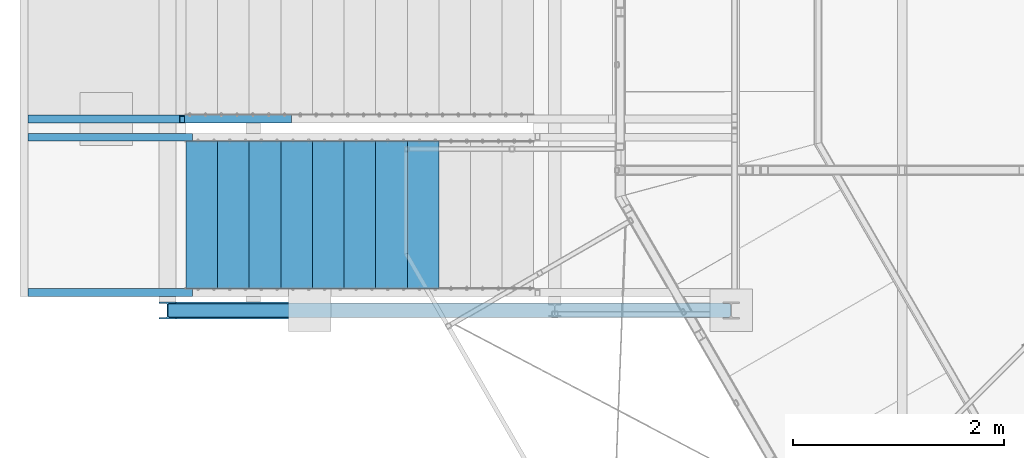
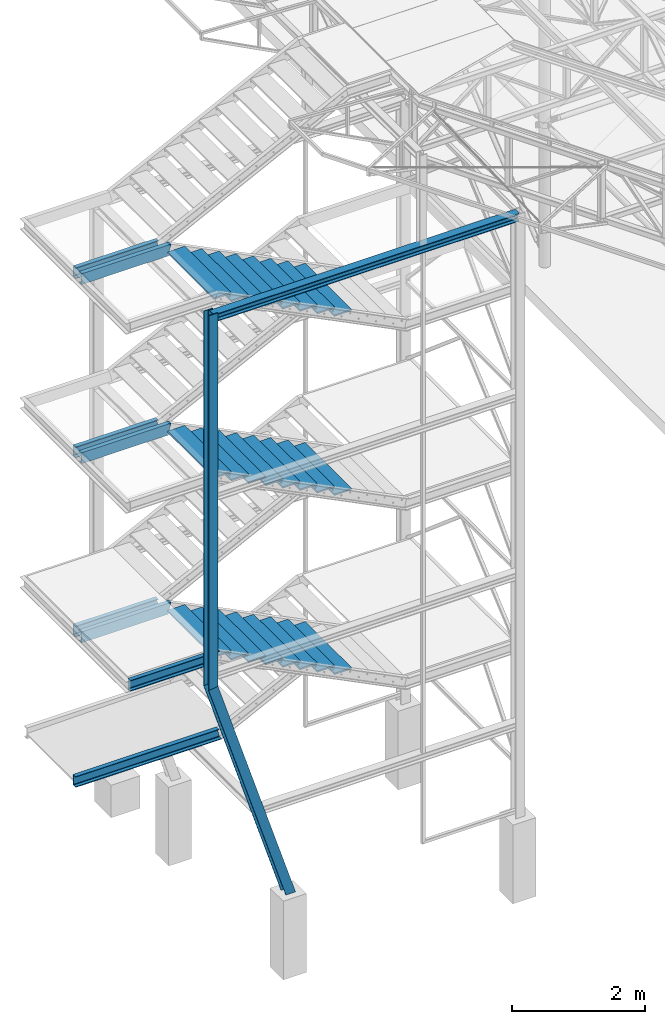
# One storey, part 36 of 132: 35 discrete accessories, 33 elements without a shape of their own.
"""IFC2X3 building model written with IfcOpenShell, lengths in millimetres."""

from ifc_helpers import new_model, si_unit, frame, origin_with_axes, origin_2d_with_axis, place, context, subcontext, project, spatial, polyline, i_section, u_section, outline, extrude, boolean, clip, halfspace, material, type_object, element, aggregate, save


model = new_model("IFC2X3")

# Units and contexts
model_context = context("Model", 3, precision=1e-05, world=origin_with_axes())
body_context = subcontext(model_context, "Body", "Model", "MODEL_VIEW")
ifc_project = project(units=[si_unit("LENGTHUNIT", "METRE", prefix="MILLI"), si_unit("AREAUNIT", "SQUARE_METRE"), si_unit("VOLUMEUNIT", "CUBIC_METRE"), si_unit("MASSUNIT", "GRAM", prefix="KILO"), si_unit("TIMEUNIT", "SECOND"), si_unit("PLANEANGLEUNIT", "RADIAN"), si_unit("SOLIDANGLEUNIT", "STERADIAN"), si_unit("THERMODYNAMICTEMPERATUREUNIT", "DEGREE_CELSIUS"), si_unit("LUMINOUSINTENSITYUNIT", "LUMEN")], contexts=[model_context])

# Site, building, storey
site_placement = place(None, origin_with_axes())
site = spatial("IfcSite", under=ifc_project, at=site_placement, Name="Budowa", CompositionType="ELEMENT")
building_placement = place(site_placement, origin_with_axes())
building = spatial("IfcBuilding", under=site, at=building_placement, Name="Undefined", CompositionType="ELEMENT")
storey_placement = place(building_placement, origin_with_axes())
storey = spatial("IfcBuildingStorey", under=building, at=storey_placement, Name="Undefined", CompositionType="ELEMENT", Elevation=0.0)

# Assembly, discrete accessory
assembly_1_placement = place(storey_placement, origin_with_axes())
assembly_1 = element("IfcElementAssembly", 1, at=assembly_1_placement, inside=storey, Name="Steel Assembly", AssemblyPlace="NOTDEFINED", PredefinedType="RIGID_FRAME")
ifc_material_1 = material(Name="STEEL/S235")
discrete_accessory_type_1 = type_object("IfcDiscreteAccessoryType", Name="BELKA")
discrete_accessory_1_placement = place(assembly_1_placement, frame((-5620.0000000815, 9487.50000004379, 12250.0000000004), z_axis=(0.0, 0.0, 1.0), x_axis=(1.0, 0.0, 0.0)))
discrete_accessory_1 = element("IfcDiscreteAccessory", 2, at=discrete_accessory_1_placement, type_object=discrete_accessory_type_1, material=ifc_material_1, Name="BELKA", ObjectType="UPN200", context=body_context, shape_type="Clipping", body=[
    clip(extrude(u_section(Depth=200.0, FlangeWidth=75.0, WebThickness=8.5, FlangeThickness=11.5, FilletRadius=11.5, EdgeRadius=6.0, at=origin_2d_with_axis()), frame((1487.44966333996, 0.0, 0.0), z_axis=(-1.0, 0.0, 0.0), x_axis=(0.0, -1.0, 0.0)), (0.0, 0.0, 1.0), 1487.45), halfspace(frame((1440.00000000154, 6.00266503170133e-11, 99.9999999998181), z_axis=(-0.97324898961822, 0.0, -0.229752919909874), x_axis=(0.0, -1.0, 0.0)), True)),
])
aggregate(assembly_1, [discrete_accessory_1])

assembly_2_placement = place(storey_placement, origin_with_axes())
assembly_2 = element("IfcElementAssembly", 3, at=assembly_2_placement, inside=storey, Name="Steel Assembly", AssemblyPlace="NOTDEFINED", PredefinedType="RIGID_FRAME")
discrete_accessory_2_placement = place(assembly_2_placement, frame((-4060.0000000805, 9312.50000004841, 12249.9999999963), z_axis=(0.0, 0.0, 1.0), x_axis=(-1.0, 0.0, 0.0)))
discrete_accessory_2 = element("IfcDiscreteAccessory", 4, at=discrete_accessory_2_placement, type_object=discrete_accessory_type_1, material=ifc_material_1, Name="BELKA", ObjectType="UPN200", context=body_context, shape_type="Clipping", body=[
    clip(extrude(u_section(Depth=200.0, FlangeWidth=75.0, WebThickness=8.5, FlangeThickness=11.5, FilletRadius=11.5, EdgeRadius=6.0, at=origin_2d_with_axis()), frame((1560.0000000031, 0.0, 0.0), z_axis=(-1.0, 0.0, 0.0), x_axis=(0.0, -1.0, 0.0)), (0.0, 0.0, 1.0), 1560.24), halfspace(frame((3.68624523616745e-06, -37.5000000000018, 99.9999999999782), z_axis=(-0.97324898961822, 0.0, -0.229752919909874), x_axis=(0.0, -1.0, 0.0)), False)),
])
aggregate(assembly_2, [discrete_accessory_2])

assembly_3_placement = place(storey_placement, origin_with_axes())
assembly_3 = element("IfcElementAssembly", 5, at=assembly_3_placement, inside=storey, Name="Steel Assembly", AssemblyPlace="NOTDEFINED", PredefinedType="RIGID_FRAME")
discrete_accessory_3_placement = place(assembly_3_placement, frame((-5620.0000000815, 9487.50000004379, 8950.00000000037), z_axis=(0.0, 0.0, 1.0), x_axis=(1.0, 0.0, 0.0)))
discrete_accessory_3 = element("IfcDiscreteAccessory", 6, at=discrete_accessory_3_placement, type_object=discrete_accessory_type_1, material=ifc_material_1, Name="BELKA", ObjectType="UPN200", context=body_context, shape_type="Clipping", body=[
    clip(extrude(u_section(Depth=200.0, FlangeWidth=75.0, WebThickness=8.5, FlangeThickness=11.5, FilletRadius=11.5, EdgeRadius=6.0, at=origin_2d_with_axis()), frame((1487.44966333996, 0.0, 0.0), z_axis=(-1.0, 0.0, 0.0), x_axis=(0.0, -1.0, 0.0)), (0.0, 0.0, 1.0), 1487.45), halfspace(frame((1440.00000000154, 6.00266503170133e-11, 99.9999999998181), z_axis=(-0.97324898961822, 0.0, -0.229752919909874), x_axis=(0.0, -1.0, 0.0)), True)),
])
aggregate(assembly_3, [discrete_accessory_3])

assembly_4_placement = place(storey_placement, origin_with_axes())
assembly_4 = element("IfcElementAssembly", 7, at=assembly_4_placement, inside=storey, Name="Steel Assembly", AssemblyPlace="NOTDEFINED", PredefinedType="RIGID_FRAME")
discrete_accessory_4_placement = place(assembly_4_placement, frame((-4060.00000007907, 9312.50000004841, 8949.99999999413), z_axis=(0.0, 0.0, 1.0), x_axis=(-1.0, 0.0, 0.0)))
discrete_accessory_4 = element("IfcDiscreteAccessory", 8, at=discrete_accessory_4_placement, type_object=discrete_accessory_type_1, material=ifc_material_1, Name="BELKA", ObjectType="UPN200", context=body_context, shape_type="Clipping", body=[
    clip(extrude(u_section(Depth=200.0, FlangeWidth=75.0, WebThickness=8.5, FlangeThickness=11.5, FilletRadius=11.5, EdgeRadius=6.0, at=origin_2d_with_axis()), frame((1560.0000000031, 0.0, 0.0), z_axis=(-1.0, 0.0, 0.0), x_axis=(0.0, -1.0, 0.0)), (0.0, 0.0, 1.0), 1560.24), halfspace(frame((3.68624523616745e-06, -37.5000000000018, 99.9999999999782), z_axis=(-0.97324898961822, 0.0, -0.229752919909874), x_axis=(0.0, -1.0, 0.0)), False)),
])
aggregate(assembly_4, [discrete_accessory_4])

assembly_5_placement = place(storey_placement, origin_with_axes())
assembly_5 = element("IfcElementAssembly", 9, at=assembly_5_placement, inside=storey, Name="Steel Assembly", AssemblyPlace="NOTDEFINED", PredefinedType="RIGID_FRAME")
discrete_accessory_5_placement = place(assembly_5_placement, frame((-5620.00000008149, 9487.50000004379, 5650.00000000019), z_axis=(0.0, 0.0, 1.0), x_axis=(1.0, 0.0, 0.0)))
discrete_accessory_5 = element("IfcDiscreteAccessory", 10, at=discrete_accessory_5_placement, type_object=discrete_accessory_type_1, material=ifc_material_1, Name="BELKA", ObjectType="UPN200", context=body_context, shape_type="Clipping", body=[
    clip(extrude(u_section(Depth=200.0, FlangeWidth=75.0, WebThickness=8.5, FlangeThickness=11.5, FilletRadius=11.5, EdgeRadius=6.0, at=origin_2d_with_axis()), frame((1487.44966333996, 0.0, 0.0), z_axis=(-1.0, 0.0, 0.0), x_axis=(0.0, -1.0, 0.0)), (0.0, 0.0, 1.0), 1487.45), halfspace(frame((1440.00000000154, 6.00266503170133e-11, 99.9999999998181), z_axis=(-0.97324898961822, 0.0, -0.229752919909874), x_axis=(0.0, -1.0, 0.0)), True)),
])
aggregate(assembly_5, [discrete_accessory_5])

assembly_6_placement = place(storey_placement, origin_with_axes())
assembly_6 = element("IfcElementAssembly", 11, at=assembly_6_placement, inside=storey, Name="Steel Assembly", AssemblyPlace="NOTDEFINED", PredefinedType="RIGID_FRAME")
discrete_accessory_6_placement = place(assembly_6_placement, frame((-5620.000000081, 7837.50000004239, 5649.9999999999), z_axis=(0.0, 0.0, 1.0), x_axis=(1.0, 0.0, 0.0)))
discrete_accessory_6 = element("IfcDiscreteAccessory", 12, at=discrete_accessory_6_placement, type_object=discrete_accessory_type_1, material=ifc_material_1, Name="BELKA", ObjectType="UPN200", context=body_context, shape_type="Clipping", body=[
    clip(extrude(u_section(Depth=200.0, FlangeWidth=75.0, WebThickness=8.5, FlangeThickness=11.5, FilletRadius=11.5, EdgeRadius=6.0, at=origin_2d_with_axis()), frame((1560.23606796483, 0.0, 0.0), z_axis=(-1.0, 0.0, 0.0), x_axis=(0.0, -1.0, 0.0)), (0.0, 0.0, 1.0), 1560.24), halfspace(frame((1559.99999998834, -37.4999999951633, 100.000000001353), z_axis=(-0.97324898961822, 0.0, 0.229752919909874), x_axis=(0.0, -1.0, 0.0)), True)),
])
aggregate(assembly_6, [discrete_accessory_6])

assembly_7_placement = place(storey_placement, origin_with_axes())
assembly_7 = element("IfcElementAssembly", 13, at=assembly_7_placement, inside=storey, Name="Steel Assembly", AssemblyPlace="NOTDEFINED", PredefinedType="RIGID_FRAME")
discrete_accessory_7_placement = place(assembly_7_placement, frame((-4060.0000000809, 9312.50000004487, 5650.00000000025), z_axis=(0.0, 0.0, 1.0), x_axis=(-1.0, 0.0, 0.0)))
discrete_accessory_7 = element("IfcDiscreteAccessory", 14, at=discrete_accessory_7_placement, type_object=discrete_accessory_type_1, material=ifc_material_1, Name="BELKA", ObjectType="UPN200", context=body_context, shape_type="Clipping", body=[
    clip(extrude(u_section(Depth=200.0, FlangeWidth=75.0, WebThickness=8.5, FlangeThickness=11.5, FilletRadius=11.5, EdgeRadius=6.0, at=origin_2d_with_axis()), frame((1560.0000000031, 0.0, 0.0), z_axis=(-1.0, 0.0, 0.0), x_axis=(0.0, -1.0, 0.0)), (0.0, 0.0, 1.0), 1560.24), halfspace(frame((3.68624523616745e-06, -37.5000000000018, 99.9999999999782), z_axis=(-0.97324898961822, 0.0, -0.229752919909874), x_axis=(0.0, -1.0, 0.0)), False)),
])
aggregate(assembly_7, [discrete_accessory_7])

assembly_8_placement = place(storey_placement, origin_with_axes())
assembly_8 = element("IfcElementAssembly", 15, at=assembly_8_placement, inside=storey, Name="Steel Assembly", AssemblyPlace="NOTDEFINED", PredefinedType="RIGID_FRAME")
discrete_accessory_8_placement = place(assembly_8_placement, frame((-5620.00000008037, 9487.50000004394, 2880.00000000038), z_axis=(0.0, 0.0, 1.0), x_axis=(1.0, 0.0, 0.0)))
discrete_accessory_8 = element("IfcDiscreteAccessory", 16, at=discrete_accessory_8_placement, type_object=discrete_accessory_type_1, material=ifc_material_1, Name="BELKA", ObjectType="UPN200", context=body_context, shape_type="Clipping", body=[
    clip(extrude(u_section(Depth=200.0, FlangeWidth=75.0, WebThickness=8.5, FlangeThickness=11.5, FilletRadius=11.5, EdgeRadius=6.0, at=origin_2d_with_axis()), frame((2547.44966359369, 0.0, 0.0), z_axis=(-1.0, 0.0, 0.0), x_axis=(0.0, -1.0, 0.0)), (0.0, 0.0, 1.0), 2547.45), halfspace(frame((2499.99999999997, -7.27595761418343e-12, 99.9999999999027), z_axis=(-0.97324898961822, 0.0, -0.229752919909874), x_axis=(0.0, -1.0, 0.0)), True)),
])
aggregate(assembly_8, [discrete_accessory_8])

assembly_9_placement = place(storey_placement, origin_with_axes())
assembly_9 = element("IfcElementAssembly", 17, at=assembly_9_placement, inside=storey, Name="Steel Assembly", AssemblyPlace="NOTDEFINED", PredefinedType="RIGID_FRAME")
ifc_material_2 = material(Name="STEEL/S235JR")
discrete_accessory_type_2 = type_object("IfcDiscreteAccessoryType", Name="STOPNIE")
discrete_accessory_9_placement = place(assembly_9_placement, frame((-3970.00000007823, 9275.00000004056, 12215.0000000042), z_axis=(0.0, 0.0, -1.0), x_axis=(0.0, -1.0, 0.0)))
discrete_accessory_9 = element("IfcDiscreteAccessory", 18, at=discrete_accessory_9_placement, type_object=discrete_accessory_type_2, material=ifc_material_2, Name="STOPNIE", ObjectType="PL30*300", context=body_context, shape_type="SweptSolid", body=[
    extrude(outline(polyline([(1400.0, 150.0), (1400.0, -150.0), (0.0, -150.0), (0.0, 150.0), (1400.0, 150.0)])), frame((0.0, 0.0, -15.0), z_axis=(0.0, 0.0, 1.0), x_axis=(1.0, 0.0, 0.0)), (0.0, 0.0, 1.0), 30.0),
])
aggregate(assembly_9, [discrete_accessory_9])

assembly_10_placement = place(storey_placement, origin_with_axes())
assembly_10 = element("IfcElementAssembly", 19, at=assembly_10_placement, inside=storey, Name="Steel Assembly", AssemblyPlace="NOTDEFINED", PredefinedType="RIGID_FRAME")
discrete_accessory_10_placement = place(assembly_10_placement, frame((-3670.00000007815, 9275.00000004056, 12065.0000000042), z_axis=(0.0, 0.0, -1.0), x_axis=(0.0, -1.0, 0.0)))
discrete_accessory_10 = element("IfcDiscreteAccessory", 20, at=discrete_accessory_10_placement, type_object=discrete_accessory_type_2, material=ifc_material_2, Name="STOPNIE", ObjectType="PL30*300", context=body_context, shape_type="SweptSolid", body=[
    extrude(outline(polyline([(1400.0, 150.0), (1400.0, -150.0), (0.0, -150.0), (0.0, 150.0), (1400.0, 150.0)])), frame((0.0, 0.0, -15.0), z_axis=(0.0, 0.0, 1.0), x_axis=(1.0, 0.0, 0.0)), (0.0, 0.0, 1.0), 30.0),
])
aggregate(assembly_10, [discrete_accessory_10])

assembly_11_placement = place(storey_placement, origin_with_axes())
assembly_11 = element("IfcElementAssembly", 21, at=assembly_11_placement, inside=storey, Name="Steel Assembly", AssemblyPlace="NOTDEFINED", PredefinedType="RIGID_FRAME")
discrete_accessory_11_placement = place(assembly_11_placement, frame((-3370.00000007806, 9275.00000004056, 11915.0000000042), z_axis=(0.0, 0.0, -1.0), x_axis=(0.0, -1.0, 0.0)))
discrete_accessory_11 = element("IfcDiscreteAccessory", 22, at=discrete_accessory_11_placement, type_object=discrete_accessory_type_2, material=ifc_material_2, Name="STOPNIE", ObjectType="PL30*300", context=body_context, shape_type="SweptSolid", body=[
    extrude(outline(polyline([(1400.0, 150.0), (1400.0, -150.0), (0.0, -150.0), (0.0, 150.0), (1400.0, 150.0)])), frame((0.0, 0.0, -15.0), z_axis=(0.0, 0.0, 1.0), x_axis=(1.0, 0.0, 0.0)), (0.0, 0.0, 1.0), 30.0),
])
aggregate(assembly_11, [discrete_accessory_11])

assembly_12_placement = place(storey_placement, origin_with_axes())
assembly_12 = element("IfcElementAssembly", 23, at=assembly_12_placement, inside=storey, Name="Steel Assembly", AssemblyPlace="NOTDEFINED", PredefinedType="RIGID_FRAME")
discrete_accessory_12_placement = place(assembly_12_placement, frame((-3070.00000007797, 9275.00000004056, 11765.0000000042), z_axis=(0.0, 0.0, -1.0), x_axis=(0.0, -1.0, 0.0)))
discrete_accessory_12 = element("IfcDiscreteAccessory", 24, at=discrete_accessory_12_placement, type_object=discrete_accessory_type_2, material=ifc_material_2, Name="STOPNIE", ObjectType="PL30*300", context=body_context, shape_type="SweptSolid", body=[
    extrude(outline(polyline([(1400.0, 150.0), (1400.0, -150.0), (0.0, -150.0), (0.0, 150.0), (1400.0, 150.0)])), frame((0.0, 0.0, -15.0), z_axis=(0.0, 0.0, 1.0), x_axis=(1.0, 0.0, 0.0)), (0.0, 0.0, 1.0), 30.0),
])
aggregate(assembly_12, [discrete_accessory_12])

assembly_13_placement = place(storey_placement, origin_with_axes())
assembly_13 = element("IfcElementAssembly", 25, at=assembly_13_placement, inside=storey, Name="Steel Assembly", AssemblyPlace="NOTDEFINED", PredefinedType="RIGID_FRAME")
discrete_accessory_13_placement = place(assembly_13_placement, frame((-2770.00000007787, 9275.00000004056, 11615.000000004), z_axis=(0.0, 0.0, -1.0), x_axis=(0.0, -1.0, 0.0)))
discrete_accessory_13 = element("IfcDiscreteAccessory", 26, at=discrete_accessory_13_placement, type_object=discrete_accessory_type_2, material=ifc_material_2, Name="STOPNIE", ObjectType="PL30*300", context=body_context, shape_type="SweptSolid", body=[
    extrude(outline(polyline([(1400.0, 150.0), (1400.0, -150.0), (0.0, -150.0), (0.0, 150.0), (1400.0, 150.0)])), frame((0.0, 0.0, -15.0), z_axis=(0.0, 0.0, 1.0), x_axis=(1.0, 0.0, 0.0)), (0.0, 0.0, 1.0), 30.0),
])
aggregate(assembly_13, [discrete_accessory_13])

assembly_14_placement = place(storey_placement, origin_with_axes())
assembly_14 = element("IfcElementAssembly", 27, at=assembly_14_placement, inside=storey, Name="Steel Assembly", AssemblyPlace="NOTDEFINED", PredefinedType="RIGID_FRAME")
discrete_accessory_14_placement = place(assembly_14_placement, frame((-2470.00000007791, 9275.00000004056, 11465.0000000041), z_axis=(0.0, 0.0, -1.0), x_axis=(0.0, -1.0, 0.0)))
discrete_accessory_14 = element("IfcDiscreteAccessory", 28, at=discrete_accessory_14_placement, type_object=discrete_accessory_type_2, material=ifc_material_2, Name="STOPNIE", ObjectType="PL30*300", context=body_context, shape_type="SweptSolid", body=[
    extrude(outline(polyline([(1400.0, 150.0), (1400.0, -150.0), (0.0, -150.0), (0.0, 150.0), (1400.0, 150.0)])), frame((0.0, 0.0, -15.0), z_axis=(0.0, 0.0, 1.0), x_axis=(1.0, 0.0, 0.0)), (0.0, 0.0, 1.0), 30.0),
])
aggregate(assembly_14, [discrete_accessory_14])

assembly_15_placement = place(storey_placement, origin_with_axes())
assembly_15 = element("IfcElementAssembly", 29, at=assembly_15_placement, inside=storey, Name="Steel Assembly", AssemblyPlace="NOTDEFINED", PredefinedType="RIGID_FRAME")
discrete_accessory_15_placement = place(assembly_15_placement, frame((-2170.00000007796, 9275.00000004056, 11315.0000000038), z_axis=(0.0, 0.0, -1.0), x_axis=(0.0, -1.0, 0.0)))
discrete_accessory_15 = element("IfcDiscreteAccessory", 30, at=discrete_accessory_15_placement, type_object=discrete_accessory_type_2, material=ifc_material_2, Name="STOPNIE", ObjectType="PL30*300", context=body_context, shape_type="SweptSolid", body=[
    extrude(outline(polyline([(1400.0, 150.0), (1400.0, -150.0), (0.0, -150.0), (0.0, 150.0), (1400.0, 150.0)])), frame((0.0, 0.0, -15.0), z_axis=(0.0, 0.0, 1.0), x_axis=(1.0, 0.0, 0.0)), (0.0, 0.0, 1.0), 30.0),
])
aggregate(assembly_15, [discrete_accessory_15])

assembly_16_placement = place(storey_placement, origin_with_axes())
assembly_16 = element("IfcElementAssembly", 31, at=assembly_16_placement, inside=storey, Name="Steel Assembly", AssemblyPlace="NOTDEFINED", PredefinedType="RIGID_FRAME")
discrete_accessory_16_placement = place(assembly_16_placement, frame((-1870.00000007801, 9275.00000004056, 11165.0000000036), z_axis=(0.0, 0.0, -1.0), x_axis=(0.0, -1.0, 0.0)))
discrete_accessory_16 = element("IfcDiscreteAccessory", 32, at=discrete_accessory_16_placement, type_object=discrete_accessory_type_2, material=ifc_material_2, Name="STOPNIE", ObjectType="PL30*300", context=body_context, shape_type="SweptSolid", body=[
    extrude(outline(polyline([(1400.0, 150.0), (1400.0, -150.0), (0.0, -150.0), (0.0, 150.0), (1400.0, 150.0)])), frame((0.0, 0.0, -15.0), z_axis=(0.0, 0.0, 1.0), x_axis=(1.0, 0.0, 0.0)), (0.0, 0.0, 1.0), 30.0),
])
aggregate(assembly_16, [discrete_accessory_16])

assembly_17_placement = place(storey_placement, origin_with_axes())
assembly_17 = element("IfcElementAssembly", 33, at=assembly_17_placement, inside=storey, Name="Steel Assembly", AssemblyPlace="NOTDEFINED", PredefinedType="RIGID_FRAME")
discrete_accessory_17_placement = place(assembly_17_placement, frame((-3970.00000007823, 9275.00000004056, 8915.00000000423), z_axis=(0.0, 0.0, -1.0), x_axis=(0.0, -1.0, 0.0)))
discrete_accessory_17 = element("IfcDiscreteAccessory", 34, at=discrete_accessory_17_placement, type_object=discrete_accessory_type_2, material=ifc_material_2, Name="STOPNIE", ObjectType="PL30*300", context=body_context, shape_type="SweptSolid", body=[
    extrude(outline(polyline([(1400.0, 150.0), (1400.0, -150.0), (0.0, -150.0), (0.0, 150.0), (1400.0, 150.0)])), frame((0.0, 0.0, -15.0), z_axis=(0.0, 0.0, 1.0), x_axis=(1.0, 0.0, 0.0)), (0.0, 0.0, 1.0), 30.0),
])
aggregate(assembly_17, [discrete_accessory_17])

assembly_18_placement = place(storey_placement, origin_with_axes())
assembly_18 = element("IfcElementAssembly", 35, at=assembly_18_placement, inside=storey, Name="Steel Assembly", AssemblyPlace="NOTDEFINED", PredefinedType="RIGID_FRAME")
discrete_accessory_18_placement = place(assembly_18_placement, frame((-3670.00000007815, 9275.00000004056, 8765.00000000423), z_axis=(0.0, 0.0, -1.0), x_axis=(0.0, -1.0, 0.0)))
discrete_accessory_18 = element("IfcDiscreteAccessory", 36, at=discrete_accessory_18_placement, type_object=discrete_accessory_type_2, material=ifc_material_2, Name="STOPNIE", ObjectType="PL30*300", context=body_context, shape_type="SweptSolid", body=[
    extrude(outline(polyline([(1400.0, 150.0), (1400.0, -150.0), (0.0, -150.0), (0.0, 150.0), (1400.0, 150.0)])), frame((0.0, 0.0, -15.0), z_axis=(0.0, 0.0, 1.0), x_axis=(1.0, 0.0, 0.0)), (0.0, 0.0, 1.0), 30.0),
])
aggregate(assembly_18, [discrete_accessory_18])

assembly_19_placement = place(storey_placement, origin_with_axes())
assembly_19 = element("IfcElementAssembly", 37, at=assembly_19_placement, inside=storey, Name="Steel Assembly", AssemblyPlace="NOTDEFINED", PredefinedType="RIGID_FRAME")
discrete_accessory_19_placement = place(assembly_19_placement, frame((-3370.00000007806, 9275.00000004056, 8615.00000000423), z_axis=(0.0, 0.0, -1.0), x_axis=(0.0, -1.0, 0.0)))
discrete_accessory_19 = element("IfcDiscreteAccessory", 38, at=discrete_accessory_19_placement, type_object=discrete_accessory_type_2, material=ifc_material_2, Name="STOPNIE", ObjectType="PL30*300", context=body_context, shape_type="SweptSolid", body=[
    extrude(outline(polyline([(1400.0, 150.0), (1400.0, -150.0), (0.0, -150.0), (0.0, 150.0), (1400.0, 150.0)])), frame((0.0, 0.0, -15.0), z_axis=(0.0, 0.0, 1.0), x_axis=(1.0, 0.0, 0.0)), (0.0, 0.0, 1.0), 30.0),
])
aggregate(assembly_19, [discrete_accessory_19])

assembly_20_placement = place(storey_placement, origin_with_axes())
assembly_20 = element("IfcElementAssembly", 39, at=assembly_20_placement, inside=storey, Name="Steel Assembly", AssemblyPlace="NOTDEFINED", PredefinedType="RIGID_FRAME")
discrete_accessory_20_placement = place(assembly_20_placement, frame((-3070.00000007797, 9275.00000004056, 8465.00000000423), z_axis=(0.0, 0.0, -1.0), x_axis=(0.0, -1.0, 0.0)))
discrete_accessory_20 = element("IfcDiscreteAccessory", 40, at=discrete_accessory_20_placement, type_object=discrete_accessory_type_2, material=ifc_material_2, Name="STOPNIE", ObjectType="PL30*300", context=body_context, shape_type="SweptSolid", body=[
    extrude(outline(polyline([(1400.0, 150.0), (1400.0, -150.0), (0.0, -150.0), (0.0, 150.0), (1400.0, 150.0)])), frame((0.0, 0.0, -15.0), z_axis=(0.0, 0.0, 1.0), x_axis=(1.0, 0.0, 0.0)), (0.0, 0.0, 1.0), 30.0),
])
aggregate(assembly_20, [discrete_accessory_20])

assembly_21_placement = place(storey_placement, origin_with_axes())
assembly_21 = element("IfcElementAssembly", 41, at=assembly_21_placement, inside=storey, Name="Steel Assembly", AssemblyPlace="NOTDEFINED", PredefinedType="RIGID_FRAME")
discrete_accessory_21_placement = place(assembly_21_placement, frame((-2770.00000007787, 9275.00000004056, 8315.00000000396), z_axis=(0.0, 0.0, -1.0), x_axis=(0.0, -1.0, 0.0)))
discrete_accessory_21 = element("IfcDiscreteAccessory", 42, at=discrete_accessory_21_placement, type_object=discrete_accessory_type_2, material=ifc_material_2, Name="STOPNIE", ObjectType="PL30*300", context=body_context, shape_type="SweptSolid", body=[
    extrude(outline(polyline([(1400.0, 150.0), (1400.0, -150.0), (0.0, -150.0), (0.0, 150.0), (1400.0, 150.0)])), frame((0.0, 0.0, -15.0), z_axis=(0.0, 0.0, 1.0), x_axis=(1.0, 0.0, 0.0)), (0.0, 0.0, 1.0), 30.0),
])
aggregate(assembly_21, [discrete_accessory_21])

assembly_22_placement = place(storey_placement, origin_with_axes())
assembly_22 = element("IfcElementAssembly", 43, at=assembly_22_placement, inside=storey, Name="Steel Assembly", AssemblyPlace="NOTDEFINED", PredefinedType="RIGID_FRAME")
discrete_accessory_22_placement = place(assembly_22_placement, frame((-2470.00000007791, 9275.00000004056, 8165.0000000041), z_axis=(0.0, 0.0, -1.0), x_axis=(0.0, -1.0, 0.0)))
discrete_accessory_22 = element("IfcDiscreteAccessory", 44, at=discrete_accessory_22_placement, type_object=discrete_accessory_type_2, material=ifc_material_2, Name="STOPNIE", ObjectType="PL30*300", context=body_context, shape_type="SweptSolid", body=[
    extrude(outline(polyline([(1400.0, 150.0), (1400.0, -150.0), (0.0, -150.0), (0.0, 150.0), (1400.0, 150.0)])), frame((0.0, 0.0, -15.0), z_axis=(0.0, 0.0, 1.0), x_axis=(1.0, 0.0, 0.0)), (0.0, 0.0, 1.0), 30.0),
])
aggregate(assembly_22, [discrete_accessory_22])

assembly_23_placement = place(storey_placement, origin_with_axes())
assembly_23 = element("IfcElementAssembly", 45, at=assembly_23_placement, inside=storey, Name="Steel Assembly", AssemblyPlace="NOTDEFINED", PredefinedType="RIGID_FRAME")
discrete_accessory_23_placement = place(assembly_23_placement, frame((-2170.00000007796, 9275.00000004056, 8015.00000000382), z_axis=(0.0, 0.0, -1.0), x_axis=(0.0, -1.0, 0.0)))
discrete_accessory_23 = element("IfcDiscreteAccessory", 46, at=discrete_accessory_23_placement, type_object=discrete_accessory_type_2, material=ifc_material_2, Name="STOPNIE", ObjectType="PL30*300", context=body_context, shape_type="SweptSolid", body=[
    extrude(outline(polyline([(1400.0, 150.0), (1400.0, -150.0), (0.0, -150.0), (0.0, 150.0), (1400.0, 150.0)])), frame((0.0, 0.0, -15.0), z_axis=(0.0, 0.0, 1.0), x_axis=(1.0, 0.0, 0.0)), (0.0, 0.0, 1.0), 30.0),
])
aggregate(assembly_23, [discrete_accessory_23])

assembly_24_placement = place(storey_placement, origin_with_axes())
assembly_24 = element("IfcElementAssembly", 47, at=assembly_24_placement, inside=storey, Name="Steel Assembly", AssemblyPlace="NOTDEFINED", PredefinedType="RIGID_FRAME")
discrete_accessory_24_placement = place(assembly_24_placement, frame((-1870.00000007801, 9275.00000004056, 7865.00000000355), z_axis=(0.0, 0.0, -1.0), x_axis=(0.0, -1.0, 0.0)))
discrete_accessory_24 = element("IfcDiscreteAccessory", 48, at=discrete_accessory_24_placement, type_object=discrete_accessory_type_2, material=ifc_material_2, Name="STOPNIE", ObjectType="PL30*300", context=body_context, shape_type="SweptSolid", body=[
    extrude(outline(polyline([(1400.0, 150.0), (1400.0, -150.0), (0.0, -150.0), (0.0, 150.0), (1400.0, 150.0)])), frame((0.0, 0.0, -15.0), z_axis=(0.0, 0.0, 1.0), x_axis=(1.0, 0.0, 0.0)), (0.0, 0.0, 1.0), 30.0),
])
aggregate(assembly_24, [discrete_accessory_24])

assembly_25_placement = place(storey_placement, origin_with_axes())
assembly_25 = element("IfcElementAssembly", 49, at=assembly_25_placement, inside=storey, Name="Steel Assembly", AssemblyPlace="NOTDEFINED", PredefinedType="RIGID_FRAME")
discrete_accessory_25_placement = place(assembly_25_placement, frame((-3970.00000007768, 9275.00000004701, 5614.99999999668), z_axis=(0.0, 0.0, -1.0), x_axis=(0.0, -1.0, 0.0)))
discrete_accessory_25 = element("IfcDiscreteAccessory", 50, at=discrete_accessory_25_placement, type_object=discrete_accessory_type_2, material=ifc_material_2, Name="STOPNIE", ObjectType="PL30*300", context=body_context, shape_type="SweptSolid", body=[
    extrude(outline(polyline([(1400.0, 150.0), (1400.0, -150.0), (0.0, -150.0), (0.0, 150.0), (1400.0, 150.0)])), frame((0.0, 0.0, -15.0), z_axis=(0.0, 0.0, 1.0), x_axis=(1.0, 0.0, 0.0)), (0.0, 0.0, 1.0), 30.0),
])
aggregate(assembly_25, [discrete_accessory_25])

assembly_26_placement = place(storey_placement, origin_with_axes())
assembly_26 = element("IfcElementAssembly", 51, at=assembly_26_placement, inside=storey, Name="Steel Assembly", AssemblyPlace="NOTDEFINED", PredefinedType="RIGID_FRAME")
discrete_accessory_26_placement = place(assembly_26_placement, frame((-3670.00000007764, 9275.00000004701, 5464.99999999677), z_axis=(0.0, 0.0, -1.0), x_axis=(0.0, -1.0, 0.0)))
discrete_accessory_26 = element("IfcDiscreteAccessory", 52, at=discrete_accessory_26_placement, type_object=discrete_accessory_type_2, material=ifc_material_2, Name="STOPNIE", ObjectType="PL30*300", context=body_context, shape_type="SweptSolid", body=[
    extrude(outline(polyline([(1400.0, 150.0), (1400.0, -150.0), (0.0, -150.0), (0.0, 150.0), (1400.0, 150.0)])), frame((0.0, 0.0, -15.0), z_axis=(0.0, 0.0, 1.0), x_axis=(1.0, 0.0, 0.0)), (0.0, 0.0, 1.0), 30.0),
])
aggregate(assembly_26, [discrete_accessory_26])

assembly_27_placement = place(storey_placement, origin_with_axes())
assembly_27 = element("IfcElementAssembly", 53, at=assembly_27_placement, inside=storey, Name="Steel Assembly", AssemblyPlace="NOTDEFINED", PredefinedType="RIGID_FRAME")
discrete_accessory_27_placement = place(assembly_27_placement, frame((-3370.00000007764, 9275.00000004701, 5314.99999999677), z_axis=(0.0, 0.0, -1.0), x_axis=(0.0, -1.0, 0.0)))
discrete_accessory_27 = element("IfcDiscreteAccessory", 54, at=discrete_accessory_27_placement, type_object=discrete_accessory_type_2, material=ifc_material_2, Name="STOPNIE", ObjectType="PL30*300", context=body_context, shape_type="SweptSolid", body=[
    extrude(outline(polyline([(1400.0, 150.0), (1400.0, -150.0), (0.0, -150.0), (0.0, 150.0), (1400.0, 150.0)])), frame((0.0, 0.0, -15.0), z_axis=(0.0, 0.0, 1.0), x_axis=(1.0, 0.0, 0.0)), (0.0, 0.0, 1.0), 30.0),
])
aggregate(assembly_27, [discrete_accessory_27])

assembly_28_placement = place(storey_placement, origin_with_axes())
assembly_28 = element("IfcElementAssembly", 55, at=assembly_28_placement, inside=storey, Name="Steel Assembly", AssemblyPlace="NOTDEFINED", PredefinedType="RIGID_FRAME")
discrete_accessory_28_placement = place(assembly_28_placement, frame((-3070.00000007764, 9275.00000004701, 5164.99999999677), z_axis=(0.0, 0.0, -1.0), x_axis=(0.0, -1.0, 0.0)))
discrete_accessory_28 = element("IfcDiscreteAccessory", 56, at=discrete_accessory_28_placement, type_object=discrete_accessory_type_2, material=ifc_material_2, Name="STOPNIE", ObjectType="PL30*300", context=body_context, shape_type="SweptSolid", body=[
    extrude(outline(polyline([(1400.0, 150.0), (1400.0, -150.0), (0.0, -150.0), (0.0, 150.0), (1400.0, 150.0)])), frame((0.0, 0.0, -15.0), z_axis=(0.0, 0.0, 1.0), x_axis=(1.0, 0.0, 0.0)), (0.0, 0.0, 1.0), 30.0),
])
aggregate(assembly_28, [discrete_accessory_28])

assembly_29_placement = place(storey_placement, origin_with_axes())
assembly_29 = element("IfcElementAssembly", 57, at=assembly_29_placement, inside=storey, Name="Steel Assembly", AssemblyPlace="NOTDEFINED", PredefinedType="RIGID_FRAME")
discrete_accessory_29_placement = place(assembly_29_placement, frame((-2770.00000007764, 9275.00000004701, 5014.99999999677), z_axis=(0.0, 0.0, -1.0), x_axis=(0.0, -1.0, 0.0)))
discrete_accessory_29 = element("IfcDiscreteAccessory", 58, at=discrete_accessory_29_placement, type_object=discrete_accessory_type_2, material=ifc_material_2, Name="STOPNIE", ObjectType="PL30*300", context=body_context, shape_type="SweptSolid", body=[
    extrude(outline(polyline([(1400.0, 150.0), (1400.0, -150.0), (0.0, -150.0), (0.0, 150.0), (1400.0, 150.0)])), frame((0.0, 0.0, -15.0), z_axis=(0.0, 0.0, 1.0), x_axis=(1.0, 0.0, 0.0)), (0.0, 0.0, 1.0), 30.0),
])
aggregate(assembly_29, [discrete_accessory_29])

assembly_30_placement = place(storey_placement, origin_with_axes())
assembly_30 = element("IfcElementAssembly", 59, at=assembly_30_placement, inside=storey, Name="Steel Assembly", AssemblyPlace="NOTDEFINED", PredefinedType="RIGID_FRAME")
discrete_accessory_30_placement = place(assembly_30_placement, frame((-2470.00000007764, 9275.00000004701, 4864.99999999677), z_axis=(0.0, 0.0, -1.0), x_axis=(0.0, -1.0, 0.0)))
discrete_accessory_30 = element("IfcDiscreteAccessory", 60, at=discrete_accessory_30_placement, type_object=discrete_accessory_type_2, material=ifc_material_2, Name="STOPNIE", ObjectType="PL30*300", context=body_context, shape_type="SweptSolid", body=[
    extrude(outline(polyline([(1400.0, 150.0), (1400.0, -150.0), (0.0, -150.0), (0.0, 150.0), (1400.0, 150.0)])), frame((0.0, 0.0, -15.0), z_axis=(0.0, 0.0, 1.0), x_axis=(1.0, 0.0, 0.0)), (0.0, 0.0, 1.0), 30.0),
])
aggregate(assembly_30, [discrete_accessory_30])

assembly_31_placement = place(storey_placement, origin_with_axes())
assembly_31 = element("IfcElementAssembly", 61, at=assembly_31_placement, inside=storey, Name="Steel Assembly", AssemblyPlace="NOTDEFINED", PredefinedType="RIGID_FRAME")
discrete_accessory_31_placement = place(assembly_31_placement, frame((-2170.00000007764, 9275.00000004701, 4714.99999999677), z_axis=(0.0, 0.0, -1.0), x_axis=(0.0, -1.0, 0.0)))
discrete_accessory_31 = element("IfcDiscreteAccessory", 62, at=discrete_accessory_31_placement, type_object=discrete_accessory_type_2, material=ifc_material_2, Name="STOPNIE", ObjectType="PL30*300", context=body_context, shape_type="SweptSolid", body=[
    extrude(outline(polyline([(1400.0, 150.0), (1400.0, -150.0), (0.0, -150.0), (0.0, 150.0), (1400.0, 150.0)])), frame((0.0, 0.0, -15.0), z_axis=(0.0, 0.0, 1.0), x_axis=(1.0, 0.0, 0.0)), (0.0, 0.0, 1.0), 30.0),
])
aggregate(assembly_31, [discrete_accessory_31])

assembly_32_placement = place(storey_placement, origin_with_axes())
assembly_32 = element("IfcElementAssembly", 63, at=assembly_32_placement, inside=storey, Name="Steel Assembly", AssemblyPlace="NOTDEFINED", PredefinedType="RIGID_FRAME")
discrete_accessory_32_placement = place(assembly_32_placement, frame((-1870.00000007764, 9275.00000004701, 4564.99999999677), z_axis=(0.0, 0.0, -1.0), x_axis=(0.0, -1.0, 0.0)))
discrete_accessory_32 = element("IfcDiscreteAccessory", 64, at=discrete_accessory_32_placement, type_object=discrete_accessory_type_2, material=ifc_material_2, Name="STOPNIE", ObjectType="PL30*300", context=body_context, shape_type="SweptSolid", body=[
    extrude(outline(polyline([(1400.0, 150.0), (1400.0, -150.0), (0.0, -150.0), (0.0, 150.0), (1400.0, 150.0)])), frame((0.0, 0.0, -15.0), z_axis=(0.0, 0.0, 1.0), x_axis=(1.0, 0.0, 0.0)), (0.0, 0.0, 1.0), 30.0),
])
aggregate(assembly_32, [discrete_accessory_32])

# Assembly, discrete accessories
assembly_33_placement = place(storey_placement, origin_with_axes())
assembly_33 = element("IfcElementAssembly", 65, at=assembly_33_placement, inside=storey, Name="Steel Assembly", AssemblyPlace="NOTDEFINED", PredefinedType="RIGID_FRAME")
discrete_accessory_type_3 = type_object("IfcDiscreteAccessoryType", Name="COLUMN")
discrete_accessory_33_placement = place(assembly_33_placement, frame((-4215.00000008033, 7670.00000004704, 12070.0), z_axis=(0.0, 0.0, 1.0), x_axis=(1.0, 0.0, 0.0)))
solid = boolean("DIFFERENCE", boolean("DIFFERENCE", boolean("DIFFERENCE", boolean("DIFFERENCE", boolean("DIFFERENCE", boolean("DIFFERENCE", boolean("DIFFERENCE", boolean("DIFFERENCE", extrude(i_section(OverallWidth=140.0, OverallDepth=140.0, WebThickness=7.0, FlangeThickness=12.0, FilletRadius=12.0, at=origin_2d_with_axis()), frame((5265.0, 0.0, 0.0), z_axis=(-1.0, 0.0, 0.0), x_axis=(0.0, -1.0, 0.0)), (0.0, 0.0, 1.0), 5340.0), extrude(outline(polyline([(0.0, 0.0), (16.0, 0.0), (16.0, 10.8000001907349), (0.699999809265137, 26.1000003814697), (0.0, 26.1000003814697), (0.0, 0.0)])), frame((-86.0999999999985, -67.0, 75.0), z_axis=(0.0, 0.0, -1.0), x_axis=(0.0, 1.0, 0.0)), (0.0, 0.0, 1.0), 150.0)), extrude(outline(polyline([(0.0, 0.0), (16.0, 0.0), (16.0, 26.1000003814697), (15.3000001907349, 26.1000003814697), (0.0, 10.8000001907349), (0.0, 0.0)])), frame((-86.0999999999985, 51.0, 75.0), z_axis=(0.0, 0.0, -1.0), x_axis=(0.0, 1.0, 0.0)), (0.0, 0.0, 1.0), 150.0)), extrude(outline(polyline([(0.0, 0.0), (85.0, 0.0), (85.0, 14.0), (0.0, 14.0), (0.0, 0.0)])), frame((-84.9999999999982, 66.0, -80.0), z_axis=(0.0, 0.0, 1.0), x_axis=(1.0, 0.0, 0.0)), (0.0, 0.0, 1.0), 160.0)), extrude(outline(polyline([(0.0, 0.0), (85.0, 0.0), (85.0, 14.0), (0.0, 14.0), (0.0, 0.0)])), frame((-84.9999999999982, -66.0, 80.0), z_axis=(0.0, 0.0, -1.0), x_axis=(1.0, 0.0, 0.0)), (0.0, 0.0, 1.0), 160.0)), extrude(outline(polyline([(0.0, 0.0), (16.0, 0.0), (16.0, 10.8000001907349), (0.699999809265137, 26.1000003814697), (0.0, 26.1000003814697), (0.0, 0.0)])), frame((5276.1, 67.0, 75.0), z_axis=(0.0, 0.0, -1.0), x_axis=(0.0, -1.0, 0.0)), (0.0, 0.0, 1.0), 150.0)), extrude(outline(polyline([(0.0, 0.0), (16.0, 0.0), (16.0, 26.1000003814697), (15.3000001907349, 26.1000003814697), (0.0, 10.8000001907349), (0.0, 0.0)])), frame((5276.1, -51.0, 75.0), z_axis=(0.0, 0.0, -1.0), x_axis=(0.0, -1.0, 0.0)), (0.0, 0.0, 1.0), 150.0)), extrude(outline(polyline([(0.0, 0.0), (85.0, 0.0), (85.0, 14.0), (0.0, 14.0), (0.0, 0.0)])), frame((5275.0, -66.0, -80.0), z_axis=(0.0, 0.0, 1.0), x_axis=(-1.0, 0.0, 0.0)), (0.0, 0.0, 1.0), 160.0)), extrude(outline(polyline([(0.0, 0.0), (85.0, 0.0), (85.0, 14.0), (0.0, 14.0), (0.0, 0.0)])), frame((5275.0, 66.0, 80.0), z_axis=(0.0, 0.0, -1.0), x_axis=(-1.0, 0.0, 0.0)), (0.0, 0.0, 1.0), 160.0))
discrete_accessory_33 = element("IfcDiscreteAccessory", 66, at=discrete_accessory_33_placement, type_object=discrete_accessory_type_3, material=ifc_material_1, Name="COLUMN", ObjectType="HEB140", context=body_context, shape_type="CSG", body=[
    boolean("DIFFERENCE", boolean("DIFFERENCE", solid, halfspace(frame((5265.0, 70.0, 1070.0), z_axis=(1.0, 0.0, 0.0), x_axis=(0.0, 1.0, 0.0)), False)), halfspace(frame((-74.9999999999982, -70.0, 1070.0), z_axis=(-1.0, 0.0, 0.0), x_axis=(0.0, -1.0, 0.0)), False)),
])
discrete_accessory_34_placement = place(assembly_33_placement, frame((-4295.00000008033, 7670.00000004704, 5270.0), z_axis=(0.0, 0.0, 1.0), x_axis=(0.0, 1.0, 0.0)))
discrete_accessory_34 = element("IfcDiscreteAccessory", 67, at=discrete_accessory_34_placement, type_object=discrete_accessory_type_3, material=ifc_material_1, Name="COLUMN", ObjectType="HEB160", context=body_context, shape_type="Clipping", body=[
    clip(extrude(i_section(OverallWidth=160.0, OverallDepth=160.0, WebThickness=8.0, FlangeThickness=13.0, FilletRadius=15.0, at=origin_2d_with_axis()), frame((0.0, 0.0, 6890.0), z_axis=(0.0, 0.0, -1.0), x_axis=(0.0, 1.0, 0.0)), (0.0, 0.0, 1.0), 6902.52), halfspace(frame((0.0, -80.00000000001, 12.4005942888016), z_axis=(0.0, 0.15317812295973, 0.988198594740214), x_axis=(-1.0, 0.0, 0.0)), True)),
])
discrete_accessory_35_placement = place(assembly_33_placement, frame((-4295.00000008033, 7670.00000004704, 5270.0), z_axis=(0.0, -1.0, 0.0), x_axis=(0.302740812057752, 0.0, -0.953072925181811)))
discrete_accessory_35 = element("IfcDiscreteAccessory", 68, at=discrete_accessory_35_placement, type_object=discrete_accessory_type_3, material=ifc_material_1, Name="COLUMN", ObjectType="HEB160", context=body_context, shape_type="Clipping", body=[
    clip(clip(extrude(i_section(OverallWidth=160.0, OverallDepth=160.0, WebThickness=8.0, FlangeThickness=13.0, FilletRadius=15.0, at=origin_2d_with_axis()), frame((4521.32422639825, -2.50983912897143e-13, 1.81898940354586e-12), z_axis=(-1.0, 0.0, 0.0), x_axis=(0.0, -1.0, 0.0)), (0.0, 0.0, 1.0), 4583.39), halfspace(frame((4461.18332359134, 6.05481624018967, 1000.0), z_axis=(-0.953072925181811, 0.302740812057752, 0.0), x_axis=(-0.302740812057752, -0.953072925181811, 0.0)), True)), halfspace(frame((12.4005942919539, 80.0000000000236, 1.81898940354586e-12), z_axis=(-0.988198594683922, 0.153178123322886, 0.0), x_axis=(0.0, 0.0, 1.0)), False)),
])
aggregate(assembly_33, [discrete_accessory_33, discrete_accessory_34, discrete_accessory_35])

save(model, "model.ifc")
